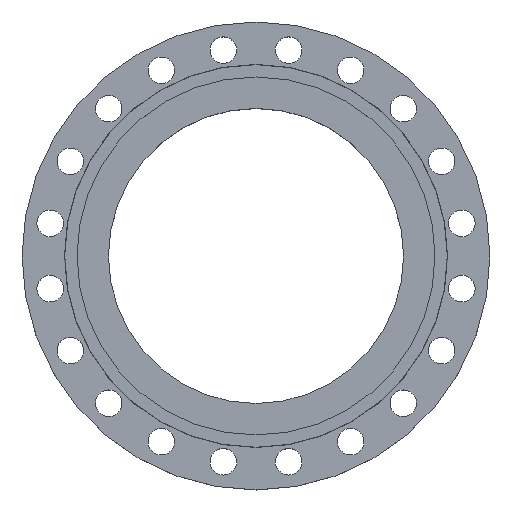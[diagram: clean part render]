
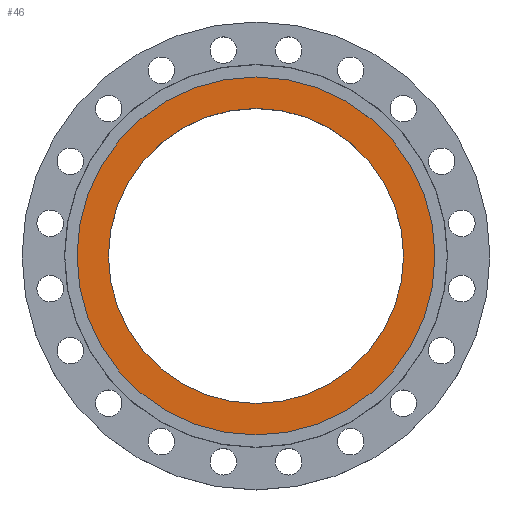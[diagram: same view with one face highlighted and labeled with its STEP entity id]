
A CAD part, top view. The second image highlights one B-rep face of the part: STEP entity #46.
In plain terms, the highlighted planar face has unit normal (0, 0, 1).
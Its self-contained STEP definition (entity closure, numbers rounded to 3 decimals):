
#46 = ADVANCED_FACE ( 'NONE', ( #1715, #806 ), #648, .T. ) ;
#49 = VERTEX_POINT ( 'NONE', #1920 ) ;
#91 = EDGE_LOOP ( 'NONE', ( #304, #301 ) ) ;
#165 = CARTESIAN_POINT ( 'NONE',  ( 262., 0., -5. ) ) ;
#301 = ORIENTED_EDGE ( 'NONE', *, *, #1351, .F. ) ;
#304 = ORIENTED_EDGE ( 'NONE', *, *, #644, .F. ) ;
#305 = ORIENTED_EDGE ( 'NONE', *, *, #1158, .T. ) ;
#306 = ORIENTED_EDGE ( 'NONE', *, *, #553, .T. ) ;
#334 = EDGE_LOOP ( 'NONE', ( #306, #305 ) ) ;
#349 = CARTESIAN_POINT ( 'NONE',  ( -262., 0., -5. ) ) ;
#352 = CIRCLE ( 'NONE', #1593, 262. ) ;
#369 = DIRECTION ( 'NONE',  ( -1., 0., 0. ) ) ;
#507 = DIRECTION ( 'NONE',  ( 0., 0., -1. ) ) ;
#547 = VERTEX_POINT ( 'NONE', #1126 ) ;
#553 = EDGE_CURVE ( 'NONE', #773, #49, #702, .T. ) ;
#581 = DIRECTION ( 'NONE',  ( 0., 0., -1. ) ) ;
#626 = VERTEX_POINT ( 'NONE', #349 ) ;
#644 = EDGE_CURVE ( 'NONE', #626, #547, #802, .T. ) ;
#648 = PLANE ( 'NONE',  #1304 ) ;
#702 = CIRCLE ( 'NONE', #705, 216. ) ;
#705 = AXIS2_PLACEMENT_3D ( 'NONE', #1547, #2002, #724 ) ;
#724 = DIRECTION ( 'NONE',  ( 1., 0., 0. ) ) ;
#773 = VERTEX_POINT ( 'NONE', #1352 ) ;
#802 = CIRCLE ( 'NONE', #804, 262. ) ;
#804 = AXIS2_PLACEMENT_3D ( 'NONE', #1324, #1796, #369 ) ;
#806 = FACE_OUTER_BOUND ( 'NONE', #91, .T. ) ;
#1126 = CARTESIAN_POINT ( 'NONE',  ( 262., 0., -5. ) ) ;
#1158 = EDGE_CURVE ( 'NONE', #49, #773, #1908, .T. ) ;
#1180 = DIRECTION ( 'NONE',  ( 1., 0., 0. ) ) ;
#1191 = AXIS2_PLACEMENT_3D ( 'NONE', #1894, #581, #1301 ) ;
#1252 = DIRECTION ( 'NONE',  ( -1., 0., 0. ) ) ;
#1301 = DIRECTION ( 'NONE',  ( 1., 0., 0. ) ) ;
#1304 = AXIS2_PLACEMENT_3D ( 'NONE', #165, #2033, #1180 ) ;
#1324 = CARTESIAN_POINT ( 'NONE',  ( 0., 0., -5. ) ) ;
#1351 = EDGE_CURVE ( 'NONE', #547, #626, #352, .T. ) ;
#1352 = CARTESIAN_POINT ( 'NONE',  ( -216., 0., -5. ) ) ;
#1547 = CARTESIAN_POINT ( 'NONE',  ( 0., 0., -5. ) ) ;
#1593 = AXIS2_PLACEMENT_3D ( 'NONE', #1854, #507, #1252 ) ;
#1715 = FACE_BOUND ( 'NONE', #334, .T. ) ;
#1796 = DIRECTION ( 'NONE',  ( 0., 0., -1. ) ) ;
#1854 = CARTESIAN_POINT ( 'NONE',  ( 0., 0., -5. ) ) ;
#1894 = CARTESIAN_POINT ( 'NONE',  ( 0., 0., -5. ) ) ;
#1908 = CIRCLE ( 'NONE', #1191, 216. ) ;
#1920 = CARTESIAN_POINT ( 'NONE',  ( 216., 0., -5. ) ) ;
#2002 = DIRECTION ( 'NONE',  ( 0., 0., -1. ) ) ;
#2033 = DIRECTION ( 'NONE',  ( 0., 0., 1. ) ) ;
